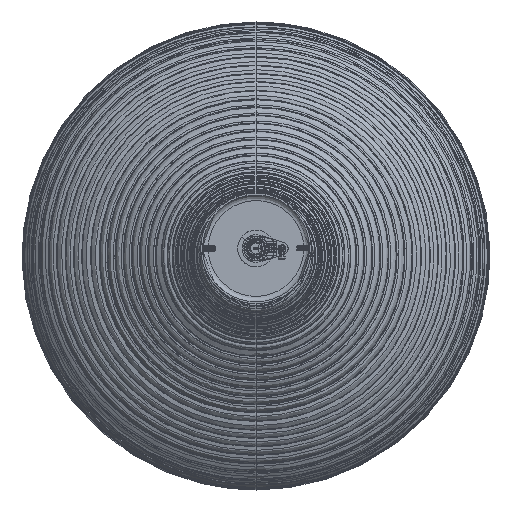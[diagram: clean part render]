
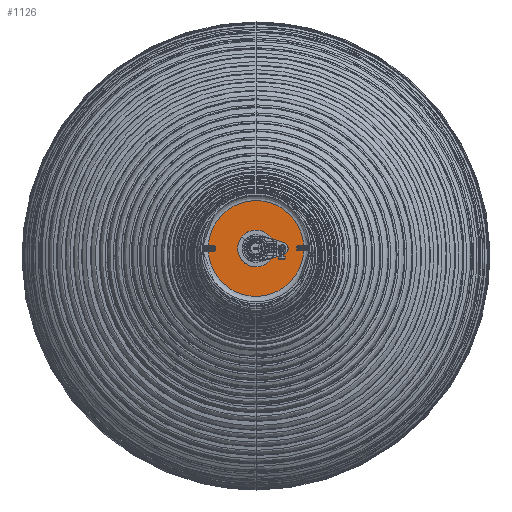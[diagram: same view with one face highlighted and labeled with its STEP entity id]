
A CAD part, top view. The second image highlights one B-rep face of the part: STEP entity #1126.
In plain terms, the highlighted planar face has unit normal (0, 0, 1).
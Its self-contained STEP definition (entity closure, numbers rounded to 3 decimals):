
#128=FACE_BOUND('',#8710,.T.);
#1126=ADVANCED_FACE('',(#4901,#128),#56313,.T.);
#4901=FACE_OUTER_BOUND('',#8709,.T.);
#8709=EDGE_LOOP('',(#15809,#15810));
#8710=EDGE_LOOP('',(#15811,#15812));
#15809=ORIENTED_EDGE('',*,*,#32988,.T.);
#15810=ORIENTED_EDGE('',*,*,#32955,.T.);
#15811=ORIENTED_EDGE('',*,*,#32990,.T.);
#15812=ORIENTED_EDGE('',*,*,#32953,.T.);
#32953=EDGE_CURVE('',#51365,#51364,#47895,.T.);
#32955=EDGE_CURVE('',#51367,#51368,#47896,.T.);
#32988=EDGE_CURVE('',#51368,#51367,#47913,.T.);
#32990=EDGE_CURVE('',#51364,#51365,#47915,.T.);
#47895=(
BOUNDED_CURVE()
B_SPLINE_CURVE(2,(#128146,#128147,#128148,#128149,#128150),
 .UNSPECIFIED.,.F.,.F.)
B_SPLINE_CURVE_WITH_KNOTS((3,2,3),(-17.279,-8.639,
0.),.UNSPECIFIED.)
CURVE()
GEOMETRIC_REPRESENTATION_ITEM()
RATIONAL_B_SPLINE_CURVE((1.,0.707,1.,0.707,1.))
REPRESENTATION_ITEM('')
);
#47896=(
BOUNDED_CURVE()
B_SPLINE_CURVE(2,(#128153,#128154,#128155,#128156,#128157),
 .UNSPECIFIED.,.F.,.F.)
B_SPLINE_CURVE_WITH_KNOTS((3,2,3),(-81.681,-40.841,
0.),.UNSPECIFIED.)
CURVE()
GEOMETRIC_REPRESENTATION_ITEM()
RATIONAL_B_SPLINE_CURVE((1.,0.707,1.,0.707,1.))
REPRESENTATION_ITEM('')
);
#47913=(
BOUNDED_CURVE()
B_SPLINE_CURVE(2,(#128422,#128423,#128424,#128425,#128426),
 .UNSPECIFIED.,.F.,.F.)
B_SPLINE_CURVE_WITH_KNOTS((3,2,3),(-81.681,-40.841,
0.),.UNSPECIFIED.)
CURVE()
GEOMETRIC_REPRESENTATION_ITEM()
RATIONAL_B_SPLINE_CURVE((1.,0.707,1.,0.707,1.))
REPRESENTATION_ITEM('')
);
#47915=(
BOUNDED_CURVE()
B_SPLINE_CURVE(2,(#128432,#128433,#128434,#128435,#128436),
 .UNSPECIFIED.,.F.,.F.)
B_SPLINE_CURVE_WITH_KNOTS((3,2,3),(-17.279,-8.639,
0.),.UNSPECIFIED.)
CURVE()
GEOMETRIC_REPRESENTATION_ITEM()
RATIONAL_B_SPLINE_CURVE((1.,0.707,1.,0.707,1.))
REPRESENTATION_ITEM('')
);
#51364=VERTEX_POINT('',#128095);
#51365=VERTEX_POINT('',#128096);
#51367=VERTEX_POINT('',#128098);
#51368=VERTEX_POINT('',#128099);
#56313=PLANE('',#59990);
#59990=AXIS2_PLACEMENT_3D('',#128028,#61133,$);
#61133=DIRECTION('',(0.,0.,1.));
#128028=CARTESIAN_POINT('',(-31.2,-97.813,2565.649));
#128095=CARTESIAN_POINT('',(0.,-61.113,2565.649));
#128096=CARTESIAN_POINT('',(0.,-72.113,2565.649));
#128098=CARTESIAN_POINT('',(-26.,-66.613,2565.649));
#128099=CARTESIAN_POINT('',(26.,-66.613,2565.649));
#128146=CARTESIAN_POINT('',(0.,-72.113,2565.649));
#128147=CARTESIAN_POINT('',(-5.5,-72.113,2565.649));
#128148=CARTESIAN_POINT('',(-5.5,-66.613,2565.649));
#128149=CARTESIAN_POINT('',(-5.5,-61.113,2565.649));
#128150=CARTESIAN_POINT('',(0.,-61.113,2565.649));
#128153=CARTESIAN_POINT('',(-26.,-66.613,2565.649));
#128154=CARTESIAN_POINT('',(-26.,-92.613,2565.649));
#128155=CARTESIAN_POINT('',(0.,-92.613,2565.649));
#128156=CARTESIAN_POINT('',(26.,-92.613,2565.649));
#128157=CARTESIAN_POINT('',(26.,-66.613,2565.649));
#128422=CARTESIAN_POINT('',(26.,-66.613,2565.649));
#128423=CARTESIAN_POINT('',(26.,-40.613,2565.649));
#128424=CARTESIAN_POINT('',(0.,-40.613,2565.649));
#128425=CARTESIAN_POINT('',(-26.,-40.613,2565.649));
#128426=CARTESIAN_POINT('',(-26.,-66.613,2565.649));
#128432=CARTESIAN_POINT('',(0.,-61.113,2565.649));
#128433=CARTESIAN_POINT('',(5.5,-61.113,2565.649));
#128434=CARTESIAN_POINT('',(5.5,-66.613,2565.649));
#128435=CARTESIAN_POINT('',(5.5,-72.113,2565.649));
#128436=CARTESIAN_POINT('',(0.,-72.113,2565.649));
